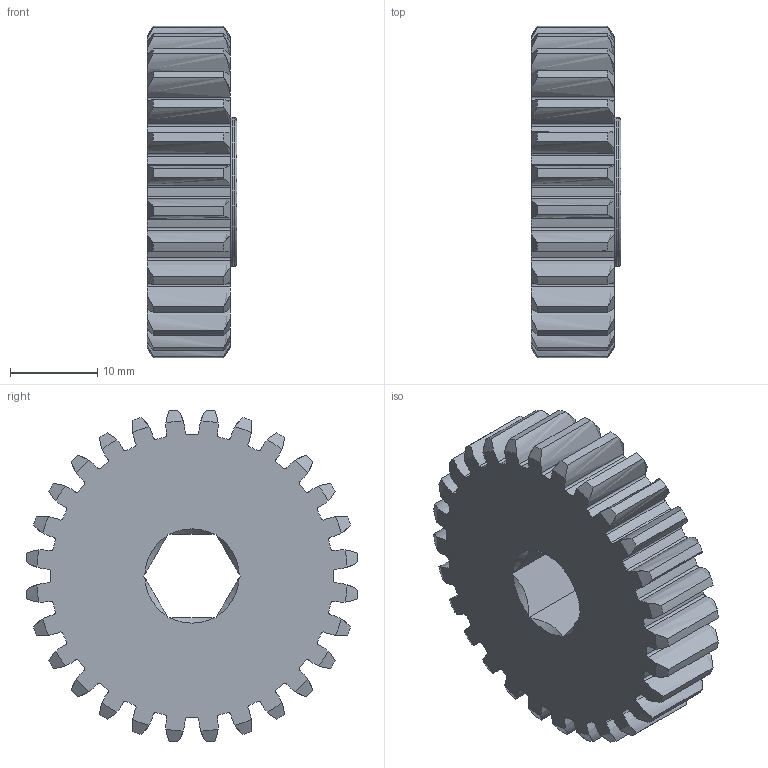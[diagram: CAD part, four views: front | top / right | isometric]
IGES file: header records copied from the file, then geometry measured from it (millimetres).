
Global section: file name: No Iges File Name specified; native system: AutoDesk Inventor R6.0; preprocessor: AutoDesk Inventor Iges Exporter R6.0; author: No Author specified; organization: No Organization specified; date: 20080103.191014; units: inch
Bounding box: 10.29 x 37.96 x 37.96 mm (x, y, z)
Surface area: 4289 mm2 (no closed solid volume)
Topology: 0 solids, 0 shells, 248 faces, 1487 edges, 1484 vertices
Faces by surface type: revolution 238, plane 9, bspline 1
